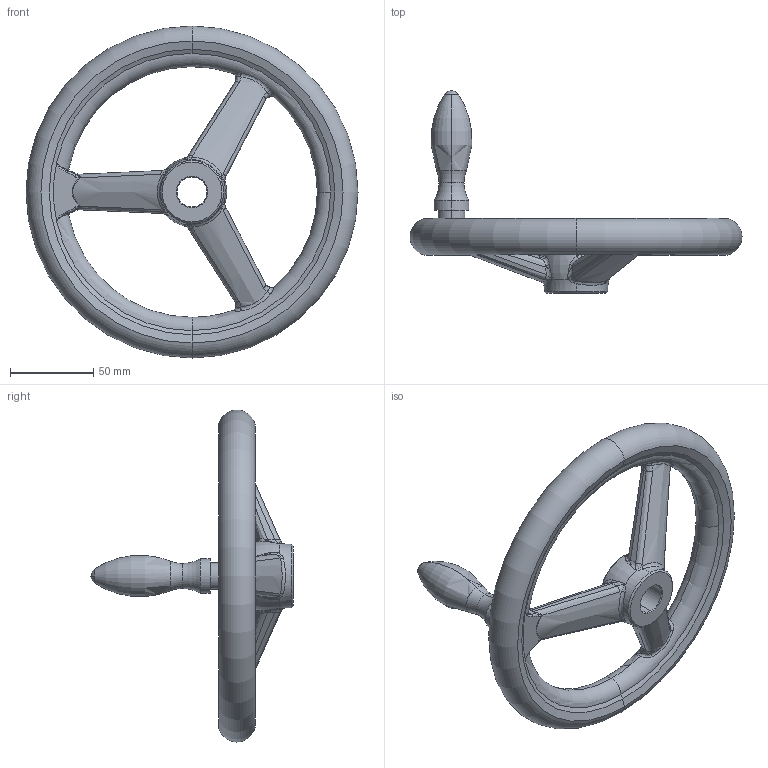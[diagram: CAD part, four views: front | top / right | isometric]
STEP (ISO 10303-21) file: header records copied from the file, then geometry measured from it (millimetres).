
FILE_DESCRIPTION (( 'STEP AP203' ), '1' );
FILE_NAME ('din950_f4_200x18.step', '2010-03-23T10:32:58', ( '_' ), ( '_' ), 'SwSTEP 2.0', 'SolidWorks 2010', '' );
FILE_SCHEMA (( 'CONFIG_CONTROL_DESIGN' ));
Length unit declared in the file: millimetre
Products named in the file (1): din950_f4_200x18
Bounding box: 200 x 122 x 200 mm (x, y, z)
Volume: 316909.4 mm3; surface area: 60677.3 mm2
Topology: 1 solids, 1 shells, 233 faces, 567 edges, 304 vertices
Faces by surface type: bspline 164, torus 28, cone 17, cylinder 11, plane 11, sphere 2
Entity records: 26902 total; most frequent: CARTESIAN_POINT 22528, ORIENTED_EDGE 1078, DIRECTION 589, EDGE_CURVE 539, VERTEX_POINT 304, B_SPLINE_CURVE_WITH_KNOTS 297, AXIS2_PLACEMENT_3D 281, EDGE_LOOP 237
